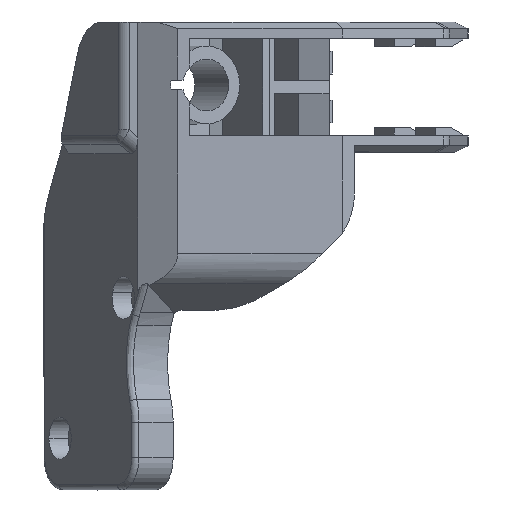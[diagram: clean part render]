
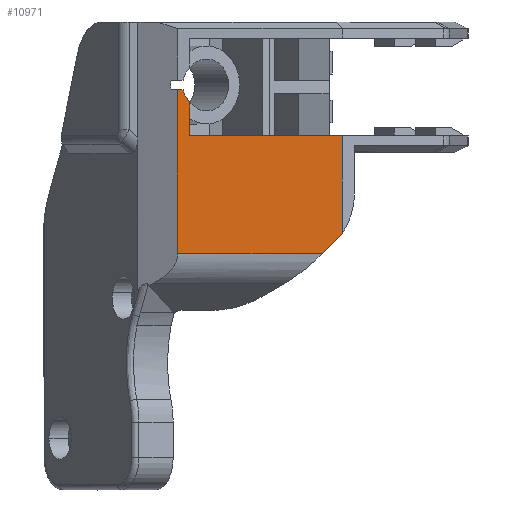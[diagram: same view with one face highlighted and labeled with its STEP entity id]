
A CAD part, top view. The second image highlights one B-rep face of the part: STEP entity #10971.
In plain terms, the highlighted planar face has unit normal (0.006, 0, 1).
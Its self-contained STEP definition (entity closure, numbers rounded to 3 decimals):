
#10921=AXIS2_PLACEMENT_3D('Plane Axis2P3D',#10918,#10919,#10920) ;
#2333=CARTESIAN_POINT('Vertex',(-153.615,-1336.714,364.913)) ;
#2336=CARTESIAN_POINT('Line Origine',(-155.072,-1338.194,364.921)) ;
#2340=CARTESIAN_POINT('Vertex',(-156.53,-1339.673,364.93)) ;
#4317=CARTESIAN_POINT('Vertex',(-153.452,-1321.501,364.912)) ;
#4320=CARTESIAN_POINT('Line Origine',(-153.452,-1329.023,364.912)) ;
#4324=CARTESIAN_POINT('Vertex',(-153.452,-1336.545,364.912)) ;
#4375=CARTESIAN_POINT('Control Point',(-153.615,-1336.714,364.913)) ;
#4376=CARTESIAN_POINT('Control Point',(-153.56,-1336.659,364.913)) ;
#4377=CARTESIAN_POINT('Control Point',(-153.505,-1336.602,364.912)) ;
#4378=CARTESIAN_POINT('Control Point',(-153.452,-1336.545,364.912)) ;
#4439=CARTESIAN_POINT('Line Origine',(-176.935,-1320.183,365.046)) ;
#4443=CARTESIAN_POINT('Vertex',(-176.935,-1321.501,365.046)) ;
#4445=CARTESIAN_POINT('Vertex',(-176.935,-1318.865,365.046)) ;
#5492=CARTESIAN_POINT('Line Origine',(-176.935,-1317.576,365.046)) ;
#5496=CARTESIAN_POINT('Vertex',(-176.935,-1316.286,365.046)) ;
#7124=CARTESIAN_POINT('Line Origine',(-165.193,-1321.501,364.979)) ;
#7877=CARTESIAN_POINT('Line Origine',(-183.98,-1339.673,365.086)) ;
#7881=CARTESIAN_POINT('Vertex',(-178.806,-1339.673,365.056)) ;
#8163=CARTESIAN_POINT('Vertex',(-178.806,-1314.399,365.056)) ;
#8166=CARTESIAN_POINT('Line Origine',(-178.392,-1314.399,365.054)) ;
#8170=CARTESIAN_POINT('Vertex',(-177.978,-1314.399,365.052)) ;
#10845=CARTESIAN_POINT('Control Point',(-176.935,-1316.286,365.046)) ;
#10846=CARTESIAN_POINT('Control Point',(-177.321,-1315.899,365.048)) ;
#10847=CARTESIAN_POINT('Control Point',(-177.641,-1315.446,365.05)) ;
#10848=CARTESIAN_POINT('Control Point',(-177.866,-1314.934,365.051)) ;
#10849=CARTESIAN_POINT('Control Point',(-177.978,-1314.399,365.052)) ;
#10918=CARTESIAN_POINT('Axis2P3D Location',(-183.98,-1372.001,365.086)) ;
#10946=CARTESIAN_POINT('Line Origine',(-178.806,-1325.39,365.056)) ;
#10950=CARTESIAN_POINT('Vertex',(-178.806,-1336.382,365.056)) ;
#10953=CARTESIAN_POINT('Line Origine',(-178.806,-1338.028,365.056)) ;
#2337=DIRECTION('Vector Direction',(0.702,0.712,-0.004)) ;
#4321=DIRECTION('Vector Direction',(0.,-1.,0.)) ;
#4440=DIRECTION('Vector Direction',(0.,1.,0.)) ;
#5493=DIRECTION('Vector Direction',(0.,1.,0.)) ;
#7125=DIRECTION('Vector Direction',(-1.,0.,0.006)) ;
#7878=DIRECTION('Vector Direction',(-1.,0.,0.006)) ;
#8167=DIRECTION('Vector Direction',(1.,0.,-0.006)) ;
#10919=DIRECTION('Axis2P3D Direction',(-0.006,0.,-1.)) ;
#10920=DIRECTION('Axis2P3D XDirection',(0.,1.,0.)) ;
#10947=DIRECTION('Vector Direction',(0.,-1.,0.)) ;
#10954=DIRECTION('Vector Direction',(0.,-1.,0.)) ;
#2338=VECTOR('Line Direction',#2337,1.) ;
#4322=VECTOR('Line Direction',#4321,1.) ;
#4441=VECTOR('Line Direction',#4440,1.) ;
#5494=VECTOR('Line Direction',#5493,1.) ;
#7126=VECTOR('Line Direction',#7125,1.) ;
#7879=VECTOR('Line Direction',#7878,1.) ;
#8168=VECTOR('Line Direction',#8167,1.) ;
#10948=VECTOR('Line Direction',#10947,1.) ;
#10955=VECTOR('Line Direction',#10954,1.) ;
#10959=ORIENTED_EDGE('',*,*,#10952,.T.) ;
#10960=ORIENTED_EDGE('',*,*,#10957,.T.) ;
#10961=ORIENTED_EDGE('',*,*,#7883,.T.) ;
#10962=ORIENTED_EDGE('',*,*,#2342,.T.) ;
#10963=ORIENTED_EDGE('',*,*,#4379,.T.) ;
#10964=ORIENTED_EDGE('',*,*,#4326,.F.) ;
#10965=ORIENTED_EDGE('',*,*,#7128,.T.) ;
#10966=ORIENTED_EDGE('',*,*,#4447,.T.) ;
#10967=ORIENTED_EDGE('',*,*,#5498,.T.) ;
#10968=ORIENTED_EDGE('',*,*,#10850,.T.) ;
#10969=ORIENTED_EDGE('',*,*,#8172,.F.) ;
#10971=ADVANCED_FACE('MANIFOLD_SOLID_BREP #39',(#10970),#10922,.F.) ;
#4374=B_SPLINE_CURVE_WITH_KNOTS('',3,(#4375,#4376,#4377,#4378),.UNSPECIFIED.,.F.,.U.,(4,4),(0.,0.333),.UNSPECIFIED.) ;
#10844=B_SPLINE_CURVE_WITH_KNOTS('',4,(#10845,#10846,#10847,#10848,#10849),.UNSPECIFIED.,.F.,.U.,(5,5),(5.584,8.677),.UNSPECIFIED.) ;
#2342=EDGE_CURVE('',#2341,#2334,#2339,.T.) ;
#4326=EDGE_CURVE('',#4318,#4325,#4323,.T.) ;
#4379=EDGE_CURVE('',#2334,#4325,#4374,.T.) ;
#4447=EDGE_CURVE('',#4444,#4446,#4442,.T.) ;
#5498=EDGE_CURVE('',#4446,#5497,#5495,.T.) ;
#7128=EDGE_CURVE('',#4318,#4444,#7127,.T.) ;
#7883=EDGE_CURVE('',#7882,#2341,#7880,.F.) ;
#8172=EDGE_CURVE('',#8164,#8171,#8169,.T.) ;
#10850=EDGE_CURVE('',#5497,#8171,#10844,.T.) ;
#10952=EDGE_CURVE('',#8164,#10951,#10949,.T.) ;
#10957=EDGE_CURVE('',#10951,#7882,#10956,.T.) ;
#10958=EDGE_LOOP('',(#10959,#10960,#10961,#10962,#10963,#10964,#10965,#10966,#10967,#10968,#10969)) ;
#10970=FACE_OUTER_BOUND('',#10958,.T.) ;
#2339=LINE('Line',#2336,#2338) ;
#4323=LINE('Line',#4320,#4322) ;
#4442=LINE('Line',#4439,#4441) ;
#5495=LINE('Line',#5492,#5494) ;
#7127=LINE('Line',#7124,#7126) ;
#7880=LINE('Line',#7877,#7879) ;
#8169=LINE('Line',#8166,#8168) ;
#10949=LINE('Line',#10946,#10948) ;
#10956=LINE('Line',#10953,#10955) ;
#10922=PLANE('Plane',#10921) ;
#2334=VERTEX_POINT('',#2333) ;
#2341=VERTEX_POINT('',#2340) ;
#4318=VERTEX_POINT('',#4317) ;
#4325=VERTEX_POINT('',#4324) ;
#4444=VERTEX_POINT('',#4443) ;
#4446=VERTEX_POINT('',#4445) ;
#5497=VERTEX_POINT('',#5496) ;
#7882=VERTEX_POINT('',#7881) ;
#8164=VERTEX_POINT('',#8163) ;
#8171=VERTEX_POINT('',#8170) ;
#10951=VERTEX_POINT('',#10950) ;
